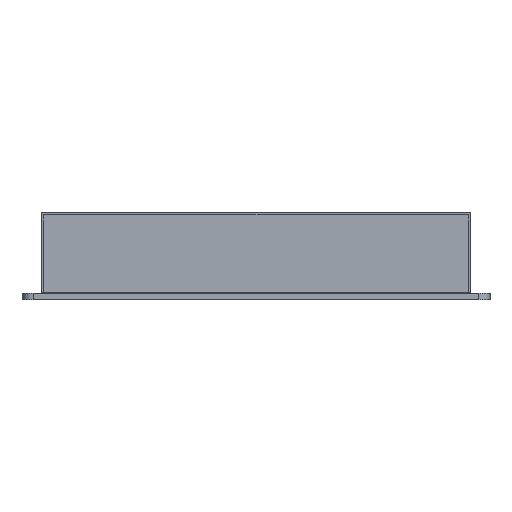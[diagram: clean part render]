
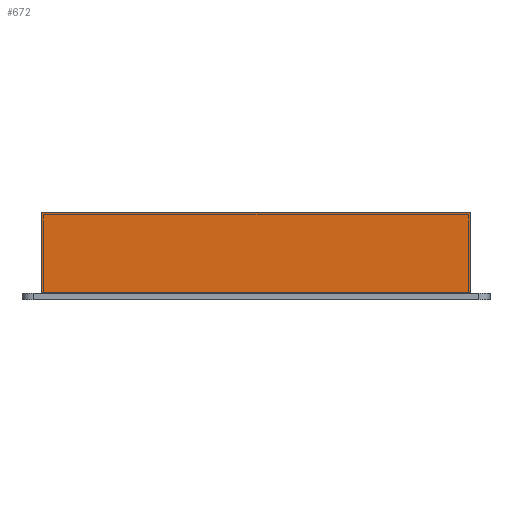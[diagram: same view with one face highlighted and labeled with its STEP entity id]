
A CAD part, left-side view. The second image highlights one B-rep face of the part: STEP entity #672.
In plain terms, the highlighted planar face has unit normal (-1, 0, 0).
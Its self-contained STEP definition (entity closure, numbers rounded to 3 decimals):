
#5 = CARTESIAN_POINT ( 'NONE',  ( -118.5, 67., 25.2 ) ) ;
#223 = PLANE ( 'NONE',  #2321 ) ;
#448 = LINE ( 'NONE', #5, #670 ) ;
#670 = VECTOR ( 'NONE', #1835, 1000. ) ;
#672 = ADVANCED_FACE ( 'NONE', ( #4353 ), #223, .F. ) ;
#676 = CARTESIAN_POINT ( 'NONE',  ( -118.5, -67., 0.2 ) ) ;
#709 = DIRECTION ( 'NONE',  ( 1., 0., 0. ) ) ;
#873 = EDGE_CURVE ( 'NONE', #2780, #4744, #1542, .T. ) ;
#941 = DIRECTION ( 'NONE',  ( 0., 0., -1. ) ) ;
#1268 = ORIENTED_EDGE ( 'NONE', *, *, #4262, .T. ) ;
#1345 = EDGE_LOOP ( 'NONE', ( #5305, #3731, #4729, #1268 ) ) ;
#1542 = LINE ( 'NONE', #5569, #3758 ) ;
#1835 = DIRECTION ( 'NONE',  ( 0., -1., 0. ) ) ;
#1936 = LINE ( 'NONE', #5626, #3022 ) ;
#2321 = AXIS2_PLACEMENT_3D ( 'NONE', #5744, #709, #5771 ) ;
#2557 = VERTEX_POINT ( 'NONE', #3071 ) ;
#2780 = VERTEX_POINT ( 'NONE', #3361 ) ;
#2905 = VERTEX_POINT ( 'NONE', #4388 ) ;
#3022 = VECTOR ( 'NONE', #4615, 1000. ) ;
#3049 = EDGE_CURVE ( 'NONE', #2905, #2780, #448, .T. ) ;
#3071 = CARTESIAN_POINT ( 'NONE',  ( -118.5, 67., 0.2 ) ) ;
#3263 = CARTESIAN_POINT ( 'NONE',  ( -118.5, 67., 25.2 ) ) ;
#3361 = CARTESIAN_POINT ( 'NONE',  ( -118.5, -67., 25.2 ) ) ;
#3379 = DIRECTION ( 'NONE',  ( 0., 0., -1. ) ) ;
#3731 = ORIENTED_EDGE ( 'NONE', *, *, #873, .F. ) ;
#3756 = VECTOR ( 'NONE', #941, 1000. ) ;
#3758 = VECTOR ( 'NONE', #3379, 1000. ) ;
#4262 = EDGE_CURVE ( 'NONE', #2905, #2557, #5589, .T. ) ;
#4353 = FACE_OUTER_BOUND ( 'NONE', #1345, .T. ) ;
#4388 = CARTESIAN_POINT ( 'NONE',  ( -118.5, 67., 25.2 ) ) ;
#4615 = DIRECTION ( 'NONE',  ( 0., -1., 0. ) ) ;
#4729 = ORIENTED_EDGE ( 'NONE', *, *, #3049, .F. ) ;
#4744 = VERTEX_POINT ( 'NONE', #676 ) ;
#5305 = ORIENTED_EDGE ( 'NONE', *, *, #5939, .T. ) ;
#5569 = CARTESIAN_POINT ( 'NONE',  ( -118.5, -67., 25.2 ) ) ;
#5589 = LINE ( 'NONE', #3263, #3756 ) ;
#5626 = CARTESIAN_POINT ( 'NONE',  ( -118.5, 67., 0.2 ) ) ;
#5744 = CARTESIAN_POINT ( 'NONE',  ( -118.5, 67., 25.2 ) ) ;
#5771 = DIRECTION ( 'NONE',  ( 0., 1., 0. ) ) ;
#5939 = EDGE_CURVE ( 'NONE', #2557, #4744, #1936, .T. ) ;
